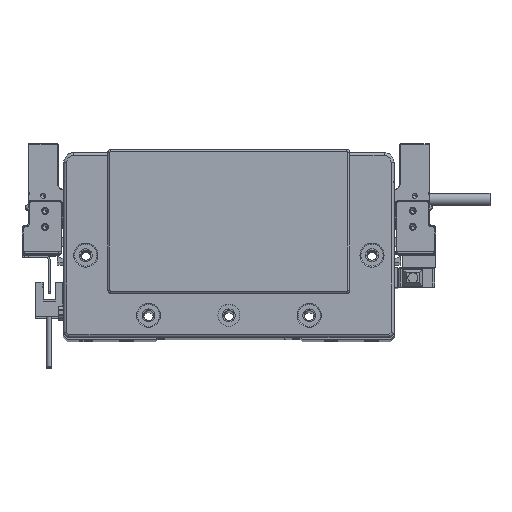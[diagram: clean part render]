
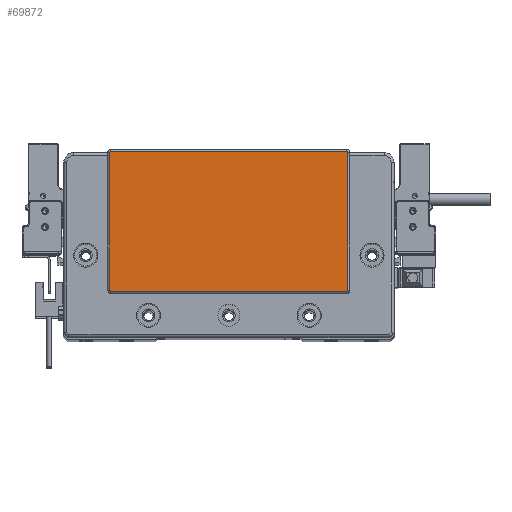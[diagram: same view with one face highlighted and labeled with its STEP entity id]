
A CAD part, top view. The second image highlights one B-rep face of the part: STEP entity #69872.
In plain terms, the highlighted planar face has unit normal (0, 0, 1) as drawn and (0, 0, -1) by its records, which use the part's own axes.
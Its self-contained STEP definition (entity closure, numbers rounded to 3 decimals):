
#2849 = EDGE_CURVE ( 'NONE', #5131, #39069, #28320, .T. ) ;
#3557 = EDGE_LOOP ( 'NONE', ( #41538, #10111, #80312, #5391, #49871, #45381, #57774, #50731 ) ) ;
#5131 = VERTEX_POINT ( 'NONE', #8998 ) ;
#5149 = LINE ( 'NONE', #31108, #11152 ) ;
#5391 = ORIENTED_EDGE ( 'NONE', *, *, #2849, .T. ) ;
#8998 = CARTESIAN_POINT ( 'NONE',  ( -58.75, -23.8, -2. ) ) ;
#9168 = CARTESIAN_POINT ( 'NONE',  ( 0., 0., -2. ) ) ;
#9959 = CARTESIAN_POINT ( 'NONE',  ( 58.75, 45.8, -2. ) ) ;
#10111 = ORIENTED_EDGE ( 'NONE', *, *, #30174, .T. ) ;
#11152 = VECTOR ( 'NONE', #30702, 1000. ) ;
#14235 = CARTESIAN_POINT ( 'NONE',  ( -59.25, 45.3, -2. ) ) ;
#14724 = PLANE ( 'NONE',  #68061 ) ;
#15073 = DIRECTION ( 'NONE',  ( 0., 1., 0. ) ) ;
#15130 = CARTESIAN_POINT ( 'NONE',  ( 59.25, -23.3, -2. ) ) ;
#16702 = VERTEX_POINT ( 'NONE', #54989 ) ;
#17190 = LINE ( 'NONE', #9959, #27506 ) ;
#18230 = DIRECTION ( 'NONE',  ( 0., -1., 0. ) ) ;
#18344 = VERTEX_POINT ( 'NONE', #28543 ) ;
#18756 = CARTESIAN_POINT ( 'NONE',  ( -59.25, -23.3, -2. ) ) ;
#23425 = AXIS2_PLACEMENT_3D ( 'NONE', #61187, #41236, #42911 ) ;
#25863 = CIRCLE ( 'NONE', #40765, 0.5 ) ;
#27506 = VECTOR ( 'NONE', #35882, 1000. ) ;
#28320 = CIRCLE ( 'NONE', #47357, 0.5 ) ;
#28543 = CARTESIAN_POINT ( 'NONE',  ( 58.75, -23.8, -2. ) ) ;
#30174 = EDGE_CURVE ( 'NONE', #73443, #18344, #25863, .T. ) ;
#30702 = DIRECTION ( 'NONE',  ( -1., 0., 0. ) ) ;
#31108 = CARTESIAN_POINT ( 'NONE',  ( -58.75, -23.8, -2. ) ) ;
#32356 = EDGE_CURVE ( 'NONE', #41876, #16702, #17190, .T. ) ;
#35095 = DIRECTION ( 'NONE',  ( -1., 0., 0. ) ) ;
#35882 = DIRECTION ( 'NONE',  ( 1., 0., 0. ) ) ;
#36062 = CARTESIAN_POINT ( 'NONE',  ( 59.25, -23.3, -2. ) ) ;
#37695 = CARTESIAN_POINT ( 'NONE',  ( 58.75, -23.3, -2. ) ) ;
#38986 = DIRECTION ( 'NONE',  ( 0., 0., -1. ) ) ;
#39069 = VERTEX_POINT ( 'NONE', #18756 ) ;
#40765 = AXIS2_PLACEMENT_3D ( 'NONE', #37695, #50062, #56836 ) ;
#41236 = DIRECTION ( 'NONE',  ( 0., 0., -1. ) ) ;
#41538 = ORIENTED_EDGE ( 'NONE', *, *, #77611, .T. ) ;
#41876 = VERTEX_POINT ( 'NONE', #49385 ) ;
#42911 = DIRECTION ( 'NONE',  ( -1., 0., 0. ) ) ;
#44759 = VECTOR ( 'NONE', #15073, 1000. ) ;
#45381 = ORIENTED_EDGE ( 'NONE', *, *, #76232, .T. ) ;
#47357 = AXIS2_PLACEMENT_3D ( 'NONE', #70916, #38986, #76467 ) ;
#47474 = FACE_OUTER_BOUND ( 'NONE', #3557, .T. ) ;
#48672 = EDGE_CURVE ( 'NONE', #39069, #68547, #72490, .T. ) ;
#49385 = CARTESIAN_POINT ( 'NONE',  ( -58.75, 45.8, -2. ) ) ;
#49871 = ORIENTED_EDGE ( 'NONE', *, *, #48672, .T. ) ;
#50062 = DIRECTION ( 'NONE',  ( 0., 0., -1. ) ) ;
#50731 = ORIENTED_EDGE ( 'NONE', *, *, #70312, .T. ) ;
#51354 = CARTESIAN_POINT ( 'NONE',  ( -58.75, 45.3, -2. ) ) ;
#51526 = CARTESIAN_POINT ( 'NONE',  ( 59.25, 45.3, -2. ) ) ;
#52604 = EDGE_CURVE ( 'NONE', #18344, #5131, #5149, .T. ) ;
#54989 = CARTESIAN_POINT ( 'NONE',  ( 58.75, 45.8, -2. ) ) ;
#56836 = DIRECTION ( 'NONE',  ( -1., 0., 0. ) ) ;
#57774 = ORIENTED_EDGE ( 'NONE', *, *, #32356, .T. ) ;
#61187 = CARTESIAN_POINT ( 'NONE',  ( 58.75, 45.3, -2. ) ) ;
#61477 = DIRECTION ( 'NONE',  ( 0., 0., -1. ) ) ;
#63987 = VERTEX_POINT ( 'NONE', #51526 ) ;
#64508 = DIRECTION ( 'NONE',  ( -1., 0., 0. ) ) ;
#68061 = AXIS2_PLACEMENT_3D ( 'NONE', #9168, #61477, #35095 ) ;
#68547 = VERTEX_POINT ( 'NONE', #79359 ) ;
#68823 = CIRCLE ( 'NONE', #76989, 0.5 ) ;
#69872 = ADVANCED_FACE ( 'NONE', ( #47474 ), #14724, .T. ) ;
#70312 = EDGE_CURVE ( 'NONE', #16702, #63987, #70936, .T. ) ;
#70916 = CARTESIAN_POINT ( 'NONE',  ( -58.75, -23.3, -2. ) ) ;
#70936 = CIRCLE ( 'NONE', #23425, 0.5 ) ;
#72490 = LINE ( 'NONE', #14235, #44759 ) ;
#73443 = VERTEX_POINT ( 'NONE', #15130 ) ;
#74672 = LINE ( 'NONE', #36062, #76805 ) ;
#76232 = EDGE_CURVE ( 'NONE', #68547, #41876, #68823, .T. ) ;
#76467 = DIRECTION ( 'NONE',  ( -1., 0., 0. ) ) ;
#76805 = VECTOR ( 'NONE', #18230, 1000. ) ;
#76989 = AXIS2_PLACEMENT_3D ( 'NONE', #51354, #77277, #64508 ) ;
#77277 = DIRECTION ( 'NONE',  ( 0., 0., -1. ) ) ;
#77611 = EDGE_CURVE ( 'NONE', #63987, #73443, #74672, .T. ) ;
#79359 = CARTESIAN_POINT ( 'NONE',  ( -59.25, 45.3, -2. ) ) ;
#80312 = ORIENTED_EDGE ( 'NONE', *, *, #52604, .T. ) ;
